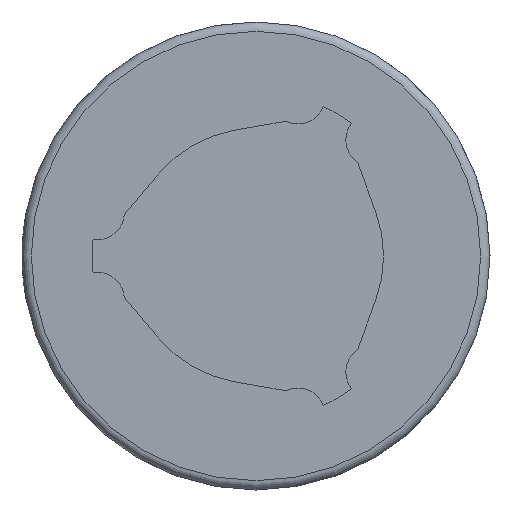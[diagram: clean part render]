
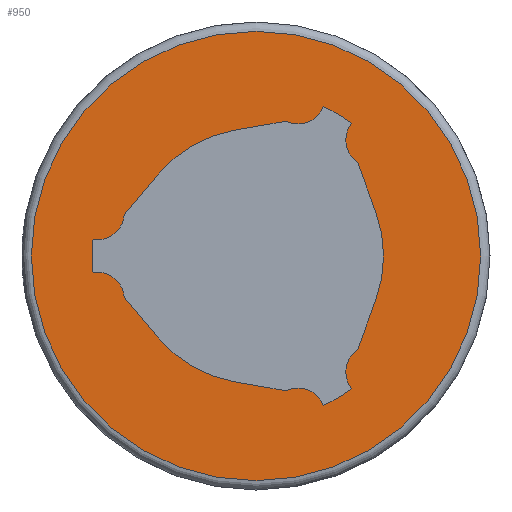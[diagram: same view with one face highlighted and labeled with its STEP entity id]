
A CAD part, left-side view. The second image highlights one B-rep face of the part: STEP entity #950.
In plain terms, the highlighted planar face has unit normal (-1, 0, 0).
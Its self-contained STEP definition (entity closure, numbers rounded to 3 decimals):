
#48=PLANE('',#1057);
#92=LINE('',#1550,#162);
#93=LINE('',#1559,#163);
#94=LINE('',#1563,#164);
#95=LINE('',#1571,#165);
#96=LINE('',#1575,#166);
#97=LINE('',#1583,#167);
#162=VECTOR('',#1255,1000.);
#163=VECTOR('',#1262,1000.);
#164=VECTOR('',#1265,1000.);
#165=VECTOR('',#1272,1000.);
#166=VECTOR('',#1275,1000.);
#167=VECTOR('',#1282,1000.);
#310=ORIENTED_EDGE('',*,*,#528,.F.);
#311=ORIENTED_EDGE('',*,*,#529,.T.);
#312=ORIENTED_EDGE('',*,*,#530,.F.);
#313=ORIENTED_EDGE('',*,*,#531,.T.);
#314=ORIENTED_EDGE('',*,*,#532,.F.);
#315=ORIENTED_EDGE('',*,*,#533,.T.);
#316=ORIENTED_EDGE('',*,*,#534,.T.);
#317=ORIENTED_EDGE('',*,*,#535,.T.);
#318=ORIENTED_EDGE('',*,*,#536,.F.);
#319=ORIENTED_EDGE('',*,*,#537,.T.);
#320=ORIENTED_EDGE('',*,*,#538,.F.);
#321=ORIENTED_EDGE('',*,*,#539,.T.);
#322=ORIENTED_EDGE('',*,*,#540,.T.);
#323=ORIENTED_EDGE('',*,*,#541,.T.);
#324=ORIENTED_EDGE('',*,*,#542,.F.);
#325=ORIENTED_EDGE('',*,*,#543,.T.);
#326=ORIENTED_EDGE('',*,*,#544,.F.);
#327=ORIENTED_EDGE('',*,*,#545,.T.);
#328=ORIENTED_EDGE('',*,*,#546,.T.);
#528=EDGE_CURVE('',#646,#646,#728,.T.);
#529=EDGE_CURVE('',#647,#648,#92,.T.);
#530=EDGE_CURVE('',#649,#648,#729,.T.);
#531=EDGE_CURVE('',#649,#650,#730,.T.);
#532=EDGE_CURVE('',#651,#650,#731,.T.);
#533=EDGE_CURVE('',#651,#652,#93,.T.);
#534=EDGE_CURVE('',#652,#653,#732,.T.);
#535=EDGE_CURVE('',#653,#654,#94,.T.);
#536=EDGE_CURVE('',#655,#654,#733,.T.);
#537=EDGE_CURVE('',#655,#656,#734,.T.);
#538=EDGE_CURVE('',#657,#656,#735,.T.);
#539=EDGE_CURVE('',#657,#658,#95,.T.);
#540=EDGE_CURVE('',#658,#659,#736,.T.);
#541=EDGE_CURVE('',#659,#660,#96,.T.);
#542=EDGE_CURVE('',#661,#660,#737,.T.);
#543=EDGE_CURVE('',#661,#662,#738,.T.);
#544=EDGE_CURVE('',#663,#662,#739,.T.);
#545=EDGE_CURVE('',#663,#664,#97,.T.);
#546=EDGE_CURVE('',#664,#647,#740,.T.);
#646=VERTEX_POINT('',#1549);
#647=VERTEX_POINT('',#1551);
#648=VERTEX_POINT('',#1552);
#649=VERTEX_POINT('',#1554);
#650=VERTEX_POINT('',#1556);
#651=VERTEX_POINT('',#1558);
#652=VERTEX_POINT('',#1560);
#653=VERTEX_POINT('',#1562);
#654=VERTEX_POINT('',#1564);
#655=VERTEX_POINT('',#1566);
#656=VERTEX_POINT('',#1568);
#657=VERTEX_POINT('',#1570);
#658=VERTEX_POINT('',#1572);
#659=VERTEX_POINT('',#1574);
#660=VERTEX_POINT('',#1576);
#661=VERTEX_POINT('',#1578);
#662=VERTEX_POINT('',#1580);
#663=VERTEX_POINT('',#1582);
#664=VERTEX_POINT('',#1584);
#728=CIRCLE('',#1058,48.);
#729=CIRCLE('',#1059,5.78);
#730=CIRCLE('',#1060,35.);
#731=CIRCLE('',#1061,5.78);
#732=CIRCLE('',#1062,27.25);
#733=CIRCLE('',#1063,5.78);
#734=CIRCLE('',#1064,35.);
#735=CIRCLE('',#1065,5.78);
#736=CIRCLE('',#1066,27.25);
#737=CIRCLE('',#1067,5.78);
#738=CIRCLE('',#1068,35.);
#739=CIRCLE('',#1069,5.78);
#740=CIRCLE('',#1070,27.25);
#783=EDGE_LOOP('',(#310));
#784=EDGE_LOOP('',(#311,#312,#313,#314,#315,#316,#317,#318,#319,#320,#321,
#322,#323,#324,#325,#326,#327,#328));
#851=FACE_BOUND('',#783,.T.);
#852=FACE_BOUND('',#784,.T.);
#950=ADVANCED_FACE('',(#851,#852),#48,.F.);
#1057=AXIS2_PLACEMENT_3D('',#1547,#1251,#1252);
#1058=AXIS2_PLACEMENT_3D('',#1548,#1253,#1254);
#1059=AXIS2_PLACEMENT_3D('',#1553,#1256,#1257);
#1060=AXIS2_PLACEMENT_3D('',#1555,#1258,#1259);
#1061=AXIS2_PLACEMENT_3D('',#1557,#1260,#1261);
#1062=AXIS2_PLACEMENT_3D('',#1561,#1263,#1264);
#1063=AXIS2_PLACEMENT_3D('',#1565,#1266,#1267);
#1064=AXIS2_PLACEMENT_3D('',#1567,#1268,#1269);
#1065=AXIS2_PLACEMENT_3D('',#1569,#1270,#1271);
#1066=AXIS2_PLACEMENT_3D('',#1573,#1273,#1274);
#1067=AXIS2_PLACEMENT_3D('',#1577,#1276,#1277);
#1068=AXIS2_PLACEMENT_3D('',#1579,#1278,#1279);
#1069=AXIS2_PLACEMENT_3D('',#1581,#1280,#1281);
#1070=AXIS2_PLACEMENT_3D('',#1585,#1283,#1284);
#1251=DIRECTION('',(1.,0.,0.));
#1252=DIRECTION('',(0.,0.,-1.));
#1253=DIRECTION('',(1.,0.,0.));
#1254=DIRECTION('',(0.,0.,-1.));
#1255=DIRECTION('',(0.,-0.985,0.174));
#1256=DIRECTION('',(1.,0.,0.));
#1257=DIRECTION('',(0.,0.,-1.));
#1258=DIRECTION('',(1.,0.,0.));
#1259=DIRECTION('',(0.,0.,-1.));
#1260=DIRECTION('',(1.,0.,0.));
#1261=DIRECTION('',(0.,0.,-1.));
#1262=DIRECTION('',(0.,-0.342,-0.94));
#1263=DIRECTION('',(1.,0.,0.));
#1264=DIRECTION('',(0.,0.,-1.));
#1265=DIRECTION('',(0.,0.342,-0.94));
#1266=DIRECTION('',(1.,0.,0.));
#1267=DIRECTION('',(0.,0.,-1.));
#1268=DIRECTION('',(1.,0.,0.));
#1269=DIRECTION('',(0.,0.,-1.));
#1270=DIRECTION('',(1.,0.,0.));
#1271=DIRECTION('',(0.,0.,-1.));
#1272=DIRECTION('',(0.,0.985,0.174));
#1273=DIRECTION('',(1.,0.,0.));
#1274=DIRECTION('',(0.,0.,-1.));
#1275=DIRECTION('',(0.,0.643,0.766));
#1276=DIRECTION('',(1.,0.,0.));
#1277=DIRECTION('',(0.,0.,-1.));
#1278=DIRECTION('',(1.,0.,0.));
#1279=DIRECTION('',(0.,0.,-1.));
#1280=DIRECTION('',(1.,0.,0.));
#1281=DIRECTION('',(0.,0.,-1.));
#1282=DIRECTION('',(0.,-0.643,0.766));
#1283=DIRECTION('',(1.,0.,0.));
#1284=DIRECTION('',(0.,0.,-1.));
#1547=CARTESIAN_POINT('',(0.,0.,0.));
#1548=CARTESIAN_POINT('',(0.,0.,0.));
#1549=CARTESIAN_POINT('',(0.,0.,-48.));
#1550=CARTESIAN_POINT('',(0.,4.732,26.836));
#1551=CARTESIAN_POINT('',(0.,4.732,26.836));
#1552=CARTESIAN_POINT('',(0.,-6.42,28.802));
#1553=CARTESIAN_POINT('',(0.,-8.947,34.001));
#1554=CARTESIAN_POINT('',(0.,-14.342,31.926));
#1555=CARTESIAN_POINT('',(0.,0.,0.));
#1556=CARTESIAN_POINT('',(0.,-20.478,28.384));
#1557=CARTESIAN_POINT('',(0.,-24.972,24.749));
#1558=CARTESIAN_POINT('',(0.,-21.733,19.961));
#1559=CARTESIAN_POINT('',(0.,-21.733,19.961));
#1560=CARTESIAN_POINT('',(0.,-25.607,9.32));
#1561=CARTESIAN_POINT('',(0.,0.,0.));
#1562=CARTESIAN_POINT('',(0.,-25.607,-9.32));
#1563=CARTESIAN_POINT('',(0.,-25.607,-9.32));
#1564=CARTESIAN_POINT('',(0.,-21.733,-19.961));
#1565=CARTESIAN_POINT('',(0.,-24.972,-24.749));
#1566=CARTESIAN_POINT('',(0.,-20.478,-28.384));
#1567=CARTESIAN_POINT('',(0.,0.,0.));
#1568=CARTESIAN_POINT('',(0.,-14.342,-31.926));
#1569=CARTESIAN_POINT('',(0.,-8.947,-34.001));
#1570=CARTESIAN_POINT('',(0.,-6.42,-28.802));
#1571=CARTESIAN_POINT('',(0.,-6.42,-28.802));
#1572=CARTESIAN_POINT('',(0.,4.732,-26.836));
#1573=CARTESIAN_POINT('',(0.,0.,0.));
#1574=CARTESIAN_POINT('',(0.,20.875,-17.516));
#1575=CARTESIAN_POINT('',(0.,20.875,-17.516));
#1576=CARTESIAN_POINT('',(0.,28.154,-8.841));
#1577=CARTESIAN_POINT('',(0.,33.919,-9.252));
#1578=CARTESIAN_POINT('',(0.,34.82,-3.543));
#1579=CARTESIAN_POINT('',(0.,0.,0.));
#1580=CARTESIAN_POINT('',(0.,34.82,3.543));
#1581=CARTESIAN_POINT('',(0.,33.919,9.252));
#1582=CARTESIAN_POINT('',(0.,28.154,8.841));
#1583=CARTESIAN_POINT('',(0.,28.154,8.841));
#1584=CARTESIAN_POINT('',(0.,20.875,17.516));
#1585=CARTESIAN_POINT('',(0.,0.,0.));
